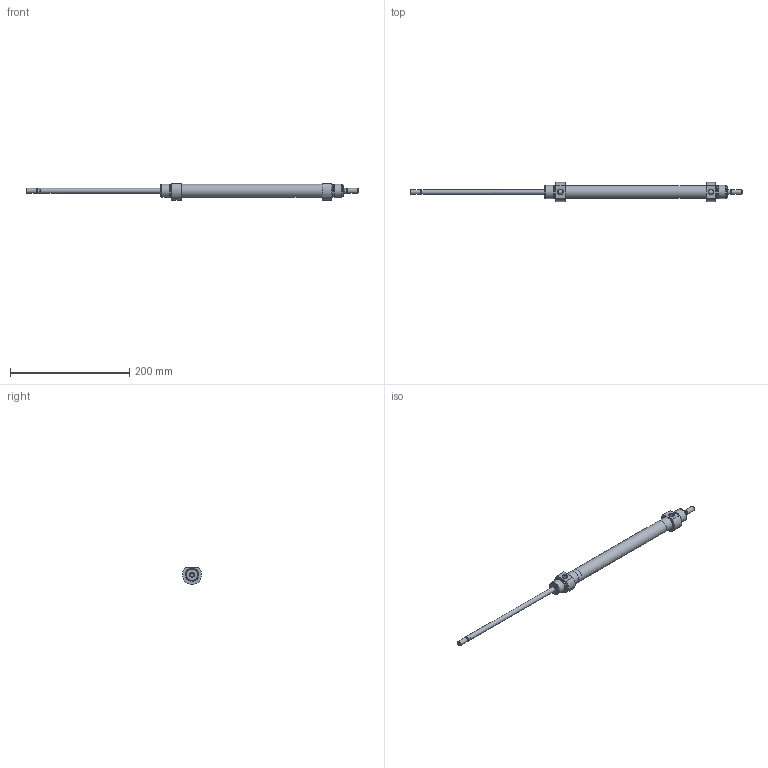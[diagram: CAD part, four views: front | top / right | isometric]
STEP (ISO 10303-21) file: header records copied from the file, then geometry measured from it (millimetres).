
FILE_DESCRIPTION( ( 'STEP AP203' ), '1' );
FILE_NAME( '//expscmdclustefs.cadenas.external/client_exchange/iodir/jobs/output/wkb68462518_no0/STEP/M101-020-0200-M__0__2_03.stp', ' ', ( ' ' ), ( ' ' ), 'PSStep 15.0.47', 'PARTsolutions', ' ' );
FILE_SCHEMA( ( 'CONFIG_CONTROL_DESIGN' ) );
Length unit declared in the file: millimetre
Products named in the file (3): M101-020-0200-M [0]; HI_M101-020-0200-M-[0]-z; HI_M101-020-0200-M-[0]-k
Assembly tree (2 placements, depth 2):
  M101-020-0200-M [0]
    HI_M101-020-0200-M-[0]-z
    HI_M101-020-0200-M-[0]-k
Bounding box: 556 x 32 x 28 mm (x, y, z)
Volume: 83021.3 mm3; surface area: 55185.6 mm2
Topology: 2 solids, 2 shells, 65 faces, 129 edges, 80 vertices
Faces by surface type: plane 26, cylinder 23, cone 14, torus 2
Full cylindrical faces by diameter (mm): 6.466 x2, 8 x6, 8.566 x2, 20 x2, 20.16 x4, 21.6 x1, 22 x4
Entity records: 1702 total; most frequent: CARTESIAN_POINT 356, DIRECTION 280, ORIENTED_EDGE 184, AXIS2_PLACEMENT_3D 128, EDGE_LOOP 116, EDGE_CURVE 92, FACE_OUTER_BOUND 88, VERTEX_POINT 76
